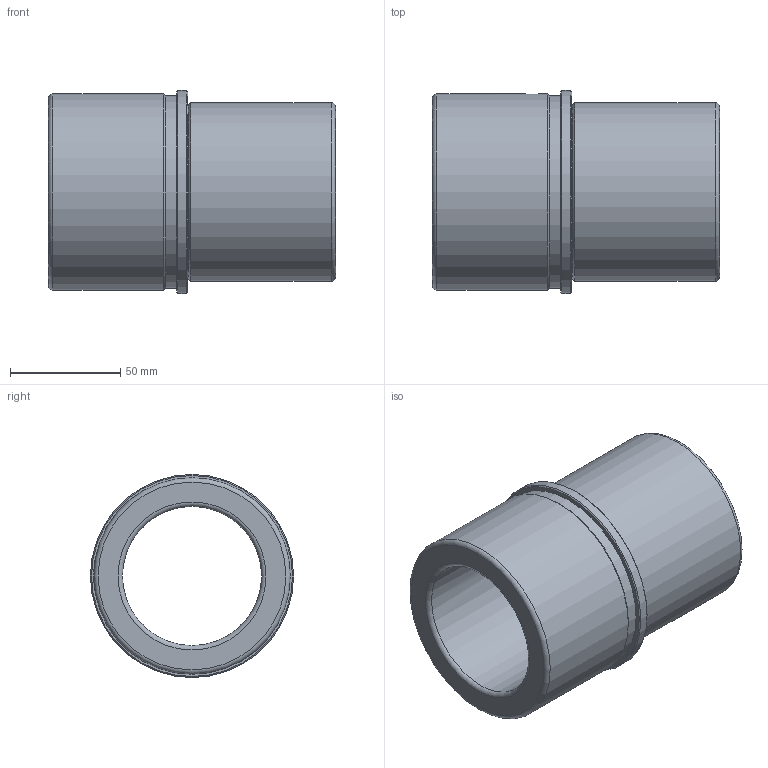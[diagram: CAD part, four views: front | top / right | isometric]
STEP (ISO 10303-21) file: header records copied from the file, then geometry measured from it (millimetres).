
FILE_DESCRIPTION( ( 'STEP AP214' ), '1' );
FILE_NAME( 'p:/temp/worker_21/temp/exporttempdir_912_431_HopdL/format_1/WZ - 4051 63 x 130.stp', '2020-12-04T19:44:09', ( 'License CC BY-ND 4.0' ), ( 'CADENAS' ), ' ', 'PARTsolutions', ' ' );
FILE_SCHEMA( ( 'AUTOMOTIVE_DESIGN { 1 0 10303 214 1 1 1 1 }' ) );
Length unit declared in the file: millimetre
Products named in the file (1): _WZ - 4051 63 x 130
Bounding box: 130 x 92 x 92 mm (x, y, z)
Volume: 330247.6 mm3; surface area: 67828.6 mm2
Topology: 1 solids, 1 shells, 21 faces, 38 edges, 22 vertices
Faces by surface type: cylinder 7, cone 5, plane 5, torus 4
Full cylindrical faces by diameter (mm): 8.376 x1, 63 x1, 79 x1, 81 x1, 87 x1, 89 x1, 92 x1
Entity records: 750 total; most frequent: CARTESIAN_POINT 196, DIRECTION 84, EDGE_LOOP 44, ORIENTED_EDGE 44, AXIS2_PLACEMENT_3D 42, FACE_OUTER_BOUND 32, EDGE_CURVE 22, VERTEX_POINT 22
